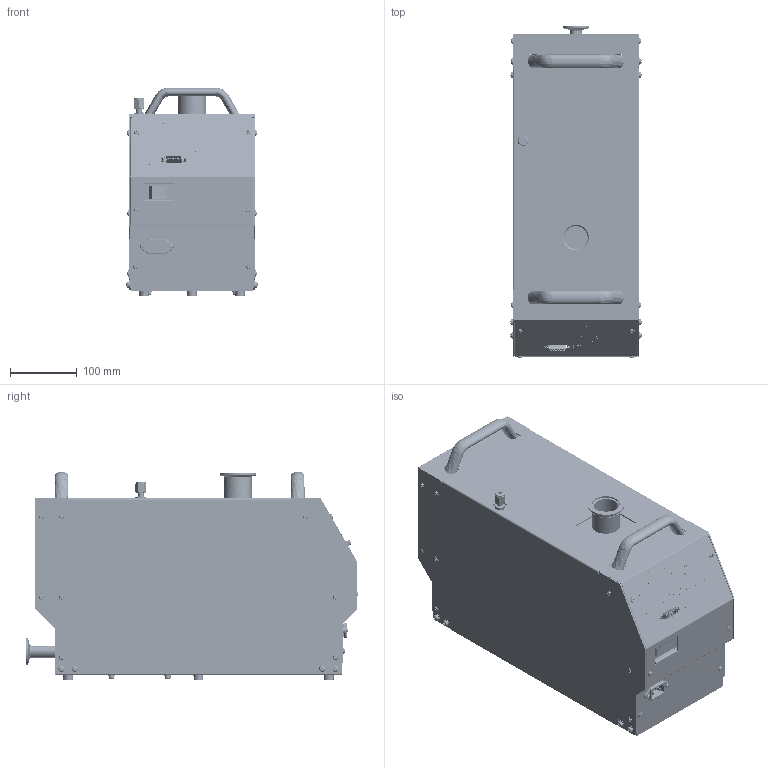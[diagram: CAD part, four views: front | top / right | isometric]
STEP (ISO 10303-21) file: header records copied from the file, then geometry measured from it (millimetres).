
FILE_DESCRIPTION(/* description */ ('Unknown'),/* implementation_level */ '2;1');
FILE_NAME(/* name */ 'S:\2D\DATA\4GDWGデータ\MOVE\酒井\DSP\DSP501 W8-A191121501-03(3D)-固定金具削除.stp',/* time_stamp */ '2021-08-19T09:11:39+09:00',/* author */ ('OVSACAD18'),/* organization */ ('Unknown'),/* preprocessor_version */ 'ST-DEVELOPER v16.5',/* originating_system */ 'Autodesk Inventor 2017',/* authorisation */ '');
FILE_SCHEMA (('AUTOMOTIVE_DESIGN { 1 0 10303 214 3 1 1 }'));
Products named in the file (59): DSP501 W8-A191121501-03(3D); W1-C161901701-00; W1-C161901701-00_1; W1-C161901701-00_2; 排気ユニット_Japan.932; W1-C161466001-00; W1-C191411501-00; W1-C191411501-00_01; W1-C191411501-00_02; bsh-m04x12; dct4-r2ss; W1-C190609501-00; W1-C161896001-02; base; W1-C161896001-02_2; W1-C161896001-02_3; W1-C161901602-00; 冷却ファン109L1424; ファンフレーム-109L1424H10t_hold
(; ファン-ka; W1-C090219701-00; C-30-FRB-15; コント0; ハン191121501-03; 防振ｺﾞﾑ \X2\FF75FF88FF7CFF9EFF65FF92
FF88FF7C\X0\; W1-C161897501-02; W1-C190175602-00; W1-C161897601-02; W1-C102294601-01; ﾌｨﾝｶﾞｰｶﾞｰﾄﾞ10
9-719H; Assembly24; 外装カ6; W1-C190609401-03_2; W1-C190609401-03_3; W1-C190609401-03_6; W1-C190609401-03_7; W1-C190609401-03_4; W1-C190609401-03_5; C-1100-001-7300; PDVC-S-CP_C-5150-004-1700 ...
Assembly tree (150 placements, depth 4):
  DSP501 W8-A191121501-03(3D)
    C-30-FRB-15  x5
    W1-C161901701-00
      W1-C161901701-00_1
      W1-C161901701-00_2
    排気ユニット_Japan.932
      W1-C161466001-00
      W1-C191411501-00
        W1-C191411501-00_01
        W1-C191411501-00_02
      bsh-m04x12  x4
      dct4-r2ss
    W1-C190609501-00
    W1-C161896001-02
      base
      W1-C161896001-02_3  x12
      W1-C161896001-02_2
    sfbs-m4×8-sus  x24
    W1-C161901602-00
    zm-m05  x8
    冷却ファン109L1424
      ファンフレーム-109L1424H10t_hold
(
      ファン-ka
    低頭六角穴付ﾎﾞﾙﾄ  x4
    la-setB-m05x12-sus304  x12
    W1-C090219701-00
    zr-m05(付属  x4
    n-m05(付属  x4
    コント0
    防振ｺﾞﾑ \X2\FF75FF88FF7CFF9EFF65FF92
FF88FF7C\X0\  x4
    ハン191121501-03  x2
    zr-m05  x4
    W1-C161897501-02
    W1-C190175602-00
    W1-C161897601-02
    la_setB-m03x6-sus304  x5
    W1-C102294601-01
    ﾌｨﾝｶﾞｰｶﾞｰﾄﾞ10
9-719H
    Assembly24
      外装カ6
      W1-C190609401-03_2  x2
      W1-C190609401-03_3
      W1-C190609401-03_6
      W1-C190609401-03_7
      W1-C190609401-03_4
      W1-C190609401-03_5
    C-1100-001-7300
    PDVC-S-CP_C-5150-004-1700
    zm-m06  x2
    n-m04  x4
    PDVC-S-INLET_C-5550-015-5300
    W1-9118527
    ﾒｽｺﾈｸﾀ
    la_setB-m03x12-ss  x2
    la_setB-m04x16-sus304  x4
    W1-C190609301-00
    p006_0f
    g030_0f
    la-m02_5x06  x5
Bounding box: 196.28 x 496.7 x 311.99 mm (x, y, z)
Volume: 4444242.3 mm3; surface area: 2411348 mm2
Topology: 153 solids, 153 shells, 3868 faces, 9438 edges, 6292 vertices
Faces by surface type: plane 2430, cylinder 1051, cone 137, bspline 136, torus 90, sphere 24
Full cylindrical faces by diameter (mm): 1.5 x15, 1.6 x24, 2.013 x10, 2.2 x7, 2.459 x7, 3 x18, 3.2 x3, 3.242 x36, 3.5 x8, 4 x35, 4.1 x12, 4.134 x24, 4.3 x8, 4.35 x1, 4.5 x24, 4.82 x1, 5 x50, 5.2 x2, 5.3 x8, 5.5 x17, 5.8 x1, 6 x23, 6.2 x10, 6.35 x5, 6.4 x2, 6.5 x16, 6.928 x1, 7 x40, 7.1 x12, 7.6 x4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
Entity records: 78037 total; most frequent: CARTESIAN_POINT 19001, DIRECTION 11399, ORIENTED_EDGE 10818, EDGE_CURVE 5409, AXIS2_PLACEMENT_3D 3826, VERTEX_POINT 3823, LINE 3747, VECTOR 3747
